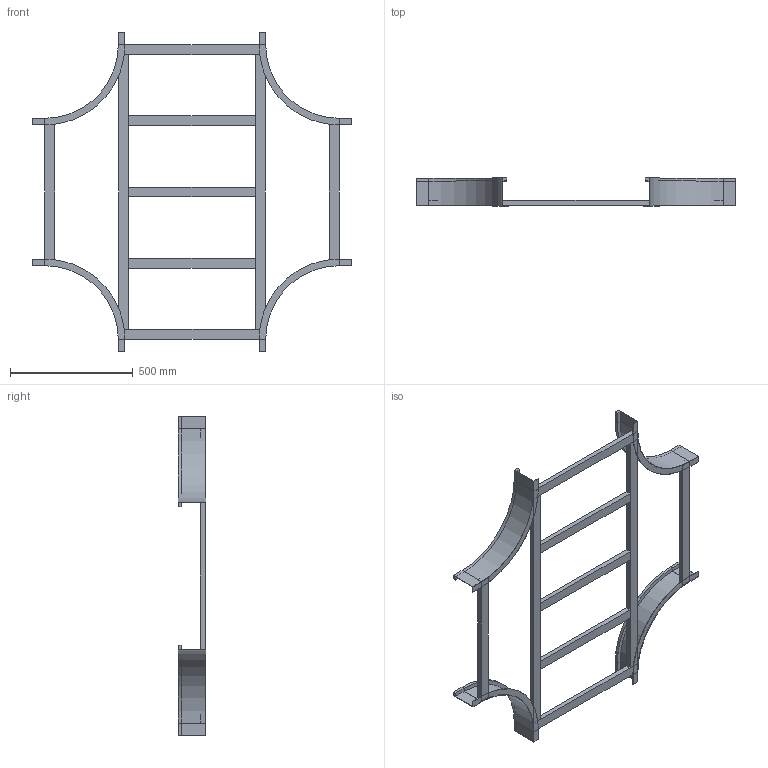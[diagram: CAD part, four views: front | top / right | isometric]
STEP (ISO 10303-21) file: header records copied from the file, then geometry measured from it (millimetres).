
FILE_DESCRIPTION (( 'STEP AP214' ), '1' );
FILE_NAME ('B2_17B3J600.step', '2025-02-21T15:57:25', ( '' ), ( '' ), 'SwSTEP 2.0', 'SolidWorks 2023', '' );
FILE_SCHEMA (( 'AUTOMOTIVE_DESIGN' ));
Length unit declared in the file: millimetre
Products named in the file (5): B2_17B3J600; B2_LONGH.INTERNO 90°_H112.5_R300; B2_TRAVERSINO_LONG._R300+600; TRAVERSINO_600; TRAVERSINO_INTERMEDIO_R300+600
Assembly tree (13 placements, depth 2):
  B2_17B3J600
    B2_LONGH.INTERNO 90°_H112.5_R300  x4
    TRAVERSINO_600  x4
    B2_TRAVERSINO_LONG._R300+600  x2
    TRAVERSINO_INTERMEDIO_R300+600  x3
Bounding box: 1300 x 112.5 x 1300 mm (x, y, z)
Volume: 6080377 mm3; surface area: 1484669.5 mm2
Topology: 13 solids, 13 shells, 158 faces, 332 edges, 200 vertices
Faces by surface type: plane 142, cylinder 16
Entity records: 1362 total; most frequent: DIRECTION 220, CARTESIAN_POINT 208, ORIENTED_EDGE 184, EDGE_CURVE 92, VECTOR 84, LINE 84, AXIS2_PLACEMENT_3D 68, VERTEX_POINT 56
